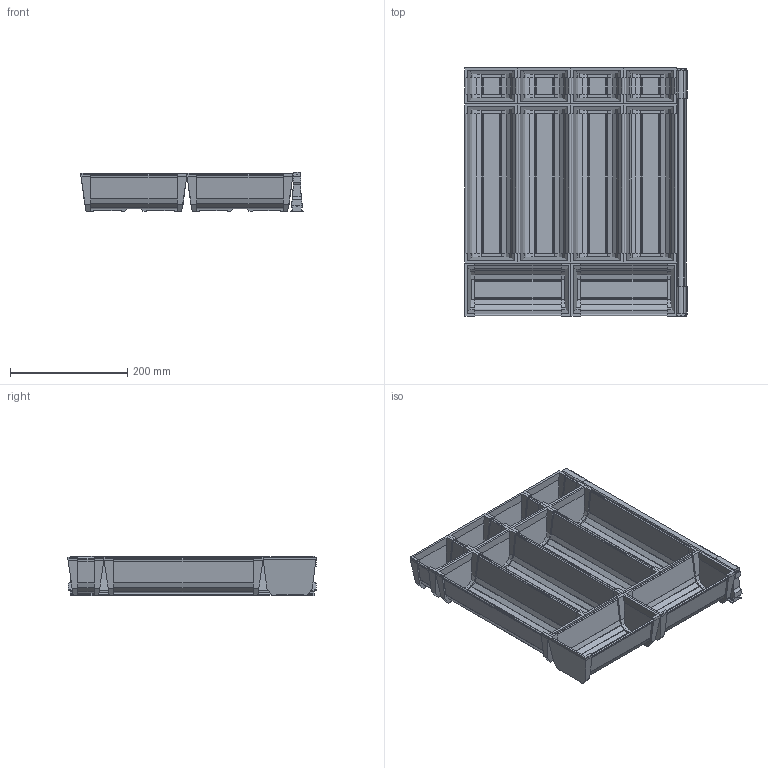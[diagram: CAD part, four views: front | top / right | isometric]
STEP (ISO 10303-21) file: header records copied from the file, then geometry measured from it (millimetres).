
FILE_DESCRIPTION (( 'STEP AP214' ), '1' );
FILE_NAME ('Magic-Sorto_B4_NL-450.STEP', '2010-08-17T11:33:43', ( 'grass' ), ( '' ), 'SwSTEP 2.0', 'SolidWorks 2010', '' );
FILE_SCHEMA (( 'AUTOMOTIVE_DESIGN' ));
Length unit declared in the file: millimetre
Products named in the file (1): Magic-Sorto_B4_NL-450
Bounding box: 379.4 x 423.5 x 67.5 mm (x, y, z)
Volume: 961095.3 mm3; surface area: 878731 mm2
Topology: 11 solids, 11 shells, 1245 faces, 3609 edges, 2406 vertices
Faces by surface type: plane 857, cylinder 388
Entity records: 54802 total; most frequent: CARTESIAN_POINT 7639, ORIENTED_EDGE 7218, DIRECTION 6753, EDGE_CURVE 3609, LINE 2777, VECTOR 2777, VERTEX_POINT 2406, AXIS2_PLACEMENT_3D 1988
